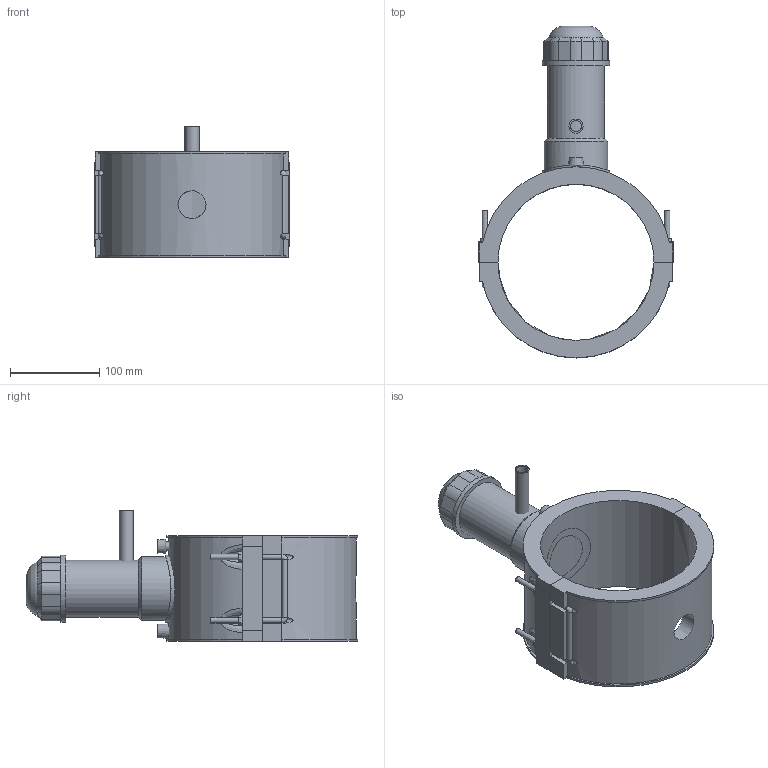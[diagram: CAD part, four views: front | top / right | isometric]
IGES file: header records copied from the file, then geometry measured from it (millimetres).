
Global section: file name: 5963DUP3060005.ipt; native system: Autodesk Inventor 2019; preprocessor: unknown; author: KIM; date: 20210830.101714; units: inch
Bounding box: 217.9 x 371.08 x 146.43 mm (x, y, z)
Volume: 1632251.4 mm3; surface area: 267084.6 mm2
Topology: 3 solids, 4 shells, 200 faces, 501 edges, 325 vertices
Faces by surface type: plane 125, cylinder 35, revolution 21, cone 15, bspline 4
Full cylindrical faces by diameter (mm): 4 x2, 6 x8, 15.8 x1, 63.78 x1, 71.283 x1, 75.035 x2
